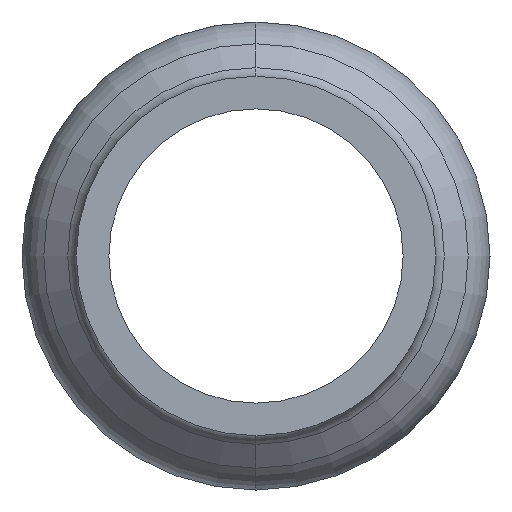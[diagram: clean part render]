
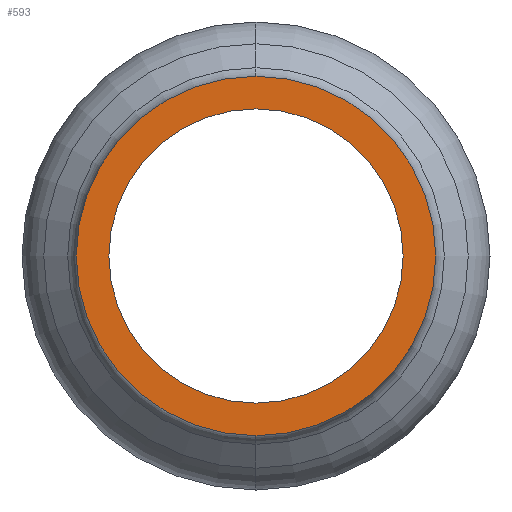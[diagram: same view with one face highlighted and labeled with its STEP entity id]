
A CAD part, left-side view. The second image highlights one B-rep face of the part: STEP entity #593.
In plain terms, the highlighted planar face has unit normal (-1, 0, 0).
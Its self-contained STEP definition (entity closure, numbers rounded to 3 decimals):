
#4 = AXIS2_PLACEMENT_3D ( 'NONE', #1161, #882, #883 ) ;
#19 = AXIS2_PLACEMENT_3D ( 'NONE', #763, #756, #753 ) ;
#80 = CIRCLE ( 'NONE', #19, 7.45 ) ;
#219 = AXIS2_PLACEMENT_3D ( 'NONE', #927, #431, #441 ) ;
#285 = DIRECTION ( 'NONE',  ( -1., 0., 0. ) ) ;
#290 = CARTESIAN_POINT ( 'NONE',  ( -35.5, 0., 0. ) ) ;
#357 = VERTEX_POINT ( 'NONE', #843 ) ;
#431 = DIRECTION ( 'NONE',  ( -1., 0., 0. ) ) ;
#435 = EDGE_LOOP ( 'NONE', ( #1049, #751 ) ) ;
#437 = EDGE_CURVE ( 'NONE', #1010, #357, #1141, .T. ) ;
#439 = VERTEX_POINT ( 'NONE', #559 ) ;
#441 = DIRECTION ( 'NONE',  ( 0., 0., 1. ) ) ;
#458 = CIRCLE ( 'NONE', #1122, 7.45 ) ;
#472 = CARTESIAN_POINT ( 'NONE',  ( -35.5, 0., 7.45 ) ) ;
#549 = DIRECTION ( 'NONE',  ( 0., 0., 1. ) ) ;
#551 = DIRECTION ( 'NONE',  ( -1., 0., 0. ) ) ;
#557 = CARTESIAN_POINT ( 'NONE',  ( -35.5, 0., 0. ) ) ;
#559 = CARTESIAN_POINT ( 'NONE',  ( -35.5, 0., -7.45 ) ) ;
#593 = ADVANCED_FACE ( 'NONE', ( #1089, #1164 ), #869, .T. ) ;
#608 = VERTEX_POINT ( 'NONE', #472 ) ;
#618 = ORIENTED_EDGE ( 'NONE', *, *, #622, .T. ) ;
#622 = EDGE_CURVE ( 'NONE', #608, #439, #458, .T. ) ;
#680 = EDGE_LOOP ( 'NONE', ( #618, #1045 ) ) ;
#697 = CIRCLE ( 'NONE', #777, 6.1 ) ;
#726 = DIRECTION ( 'NONE',  ( 0., 0., 1. ) ) ;
#751 = ORIENTED_EDGE ( 'NONE', *, *, #437, .F. ) ;
#753 = DIRECTION ( 'NONE',  ( 0., 0., 1. ) ) ;
#756 = DIRECTION ( 'NONE',  ( -1., 0., 0. ) ) ;
#763 = CARTESIAN_POINT ( 'NONE',  ( -35.5, 0., 0. ) ) ;
#777 = AXIS2_PLACEMENT_3D ( 'NONE', #557, #551, #549 ) ;
#793 = CARTESIAN_POINT ( 'NONE',  ( -35.5, 0., -6.1 ) ) ;
#843 = CARTESIAN_POINT ( 'NONE',  ( -35.5, 0., 6.1 ) ) ;
#869 = PLANE ( 'NONE',  #4 ) ;
#882 = DIRECTION ( 'NONE',  ( -1., 0., 0. ) ) ;
#883 = DIRECTION ( 'NONE',  ( 0., 0., 1. ) ) ;
#927 = CARTESIAN_POINT ( 'NONE',  ( -35.5, 0., 0. ) ) ;
#999 = EDGE_CURVE ( 'NONE', #439, #608, #80, .T. ) ;
#1010 = VERTEX_POINT ( 'NONE', #793 ) ;
#1045 = ORIENTED_EDGE ( 'NONE', *, *, #999, .T. ) ;
#1049 = ORIENTED_EDGE ( 'NONE', *, *, #1143, .F. ) ;
#1089 = FACE_OUTER_BOUND ( 'NONE', #680, .T. ) ;
#1122 = AXIS2_PLACEMENT_3D ( 'NONE', #290, #285, #726 ) ;
#1141 = CIRCLE ( 'NONE', #219, 6.1 ) ;
#1143 = EDGE_CURVE ( 'NONE', #357, #1010, #697, .T. ) ;
#1161 = CARTESIAN_POINT ( 'NONE',  ( -35.5, 6.1, 0. ) ) ;
#1164 = FACE_BOUND ( 'NONE', #435, .T. ) ;
